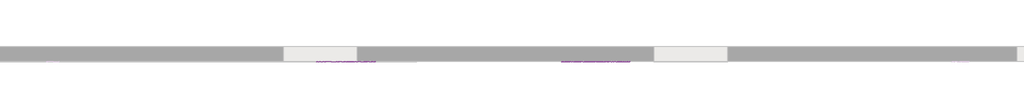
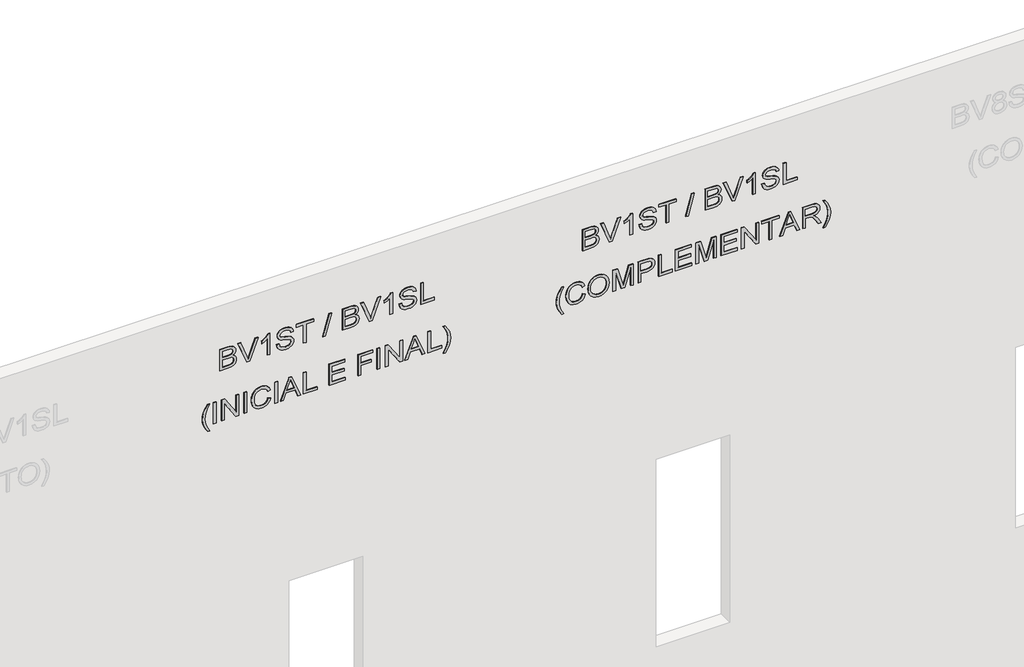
# One storey, part 2 of 5: 2 proxies.
"""IFC4 building model written with IfcOpenShell, lengths in millimetres."""

import ifcopenshell
import ifcopenshell.guid

model = None  # the IFC model being written
_history = None  # IfcOwnerHistory: only IFC2X3 demands one
_inside = {}  # id of a spatial element -> (the spatial element, [elements in it])
_under = {}  # id of a project, library or spatial element -> (it, [spatial elements below it])
_declared = {}  # id of a project -> (the project, [libraries it declares])
_typed = {}  # id of a type object -> (the type object, [elements of that type])
_made_of = {}  # id of a material, layer set ... -> (it, [elements and type objects made of it])


def new_model(schema):
    """Start an empty IFC model of exactly this schema.

    Asked for "IFC4X3", IfcOpenShell would pick the latest addendum, in which some entities
    have other attributes; the version numbers below select the first issue.
    IFC2X3 requires an IfcOwnerHistory on every rooted entity: one is made here for all.
    """
    global model, _history
    if schema == "IFC4X3":
        model = ifcopenshell.file(schema_version=(4, 3, 0, 0))
    else:
        model = ifcopenshell.file(schema=schema)
    _inside.clear()
    _under.clear()
    _declared.clear()
    _typed.clear()
    _made_of.clear()
    _history = None
    if model.schema == "IFC2X3":
        org = make("IfcOrganization", Name="unknown")
        user = make(
            "IfcPersonAndOrganization",
            ThePerson=make("IfcPerson", FamilyName="unknown"),
            TheOrganization=org,
        )
        app = make(
            "IfcApplication",
            ApplicationDeveloper=org,
            Version="unknown",
            ApplicationFullName="unknown",
            ApplicationIdentifier="unknown",
        )
        _history = make(
            "IfcOwnerHistory",
            OwningUser=user,
            OwningApplication=app,
            ChangeAction="ADDED",
            CreationDate=0,
        )
    return model


def make(cls, **values):
    """One entity of the class cls with the attributes given. An attribute that is None is left unset."""
    return model.create_entity(
        cls, **{name: value for name, value in values.items() if value is not None}
    )


def rooted(cls, **values):
    """An entity with a GlobalId (a new one), such as an element, a storey or a relation."""
    return make(cls, GlobalId=ifcopenshell.guid.new(), OwnerHistory=_history, **values)


def si_unit(unit_type, name, prefix=None):
    """IfcSIUnit, for example si_unit("LENGTHUNIT", "METRE", prefix="MILLI")."""
    return make("IfcSIUnit", UnitType=unit_type, Prefix=prefix, Name=name)


def assignment(units):
    """IfcUnitAssignment: the units of a project."""
    return None if units is None else make("IfcUnitAssignment", Units=units)


def point(xyz):
    """IfcCartesianPoint."""
    return None if xyz is None else make("IfcCartesianPoint", Coordinates=xyz)


def direction(xyz):
    """IfcDirection."""
    return None if xyz is None else make("IfcDirection", DirectionRatios=xyz)


def frame(location, z_axis=None, x_axis=None):
    """IfcAxis2Placement3D, a coordinate frame: its origin and axes. An axis left out is left unset."""
    return make(
        "IfcAxis2Placement3D",
        Location=point(location),
        Axis=direction(z_axis),
        RefDirection=direction(x_axis),
    )


def origin():
    """The frame at (0, 0, 0) with its axes left unset."""
    return frame((0.0, 0.0, 0.0))


def place(relative_to, where):
    """IfcLocalPlacement: puts the frame where relative to a parent placement (None: the world)."""
    return make(
        "IfcLocalPlacement", PlacementRelTo=relative_to, RelativePlacement=where
    )


def context(
    kind, dimensions, precision=None, world=None, true_north=None, identifier=None
):
    """IfcGeometricRepresentationContext, for example the 3D "Model" context."""
    return make(
        "IfcGeometricRepresentationContext",
        ContextIdentifier=identifier,
        ContextType=kind,
        CoordinateSpaceDimension=dimensions,
        Precision=precision,
        WorldCoordinateSystem=world,
        TrueNorth=true_north,
    )


def project(units=None, contexts=None):
    """IfcProject with its units and contexts."""
    return rooted(
        "IfcProject",
        Name="project",
        RepresentationContexts=contexts,
        UnitsInContext=assignment(units),
    )


def spatial(cls, under=None, at=None, **own):
    """A site, building, storey or space (cls), placed at a placement, below another one or the project."""
    s = rooted(cls, ObjectPlacement=at, **own)
    if under is not None:
        _under.setdefault(under.id(), (under, []))[1].append(s)
    return s


def polyline(points):
    """IfcPolyline through the points."""
    return make("IfcPolyline", Points=[point(p) for p in points])


def outline(outer, holes=None, kind="AREA"):
    """IfcArbitraryClosedProfileDef: a profile drawn as a closed curve; with holes, ...WithVoids."""
    if holes is None:
        return make("IfcArbitraryClosedProfileDef", ProfileType=kind, OuterCurve=outer)
    return make(
        "IfcArbitraryProfileDefWithVoids",
        ProfileType=kind,
        OuterCurve=outer,
        InnerCurves=holes,
    )


def extrude(swept, where, along, depth):
    """IfcExtrudedAreaSolid: the profile swept, set in the frame where, extruded along a direction by depth."""
    return make(
        "IfcExtrudedAreaSolid",
        SweptArea=swept,
        Position=where,
        ExtrudedDirection=direction(along),
        Depth=depth,
    )


def shape(context_of_items, identifier, shape_type, items):
    """IfcShapeRepresentation: the items that make up one representation, for example the "Body"."""
    return make(
        "IfcShapeRepresentation",
        ContextOfItems=context_of_items,
        RepresentationIdentifier=identifier,
        RepresentationType=shape_type,
        Items=items,
    )


def made_of(thing, what):
    """Note that an element or type object is made of a material, layer set ...; save() writes the relation."""
    if what is not None:
        _made_of.setdefault(what.id(), (what, []))[1].append(thing)
    return thing


def element(
    cls,
    number,
    at=None,
    inside=None,
    cuts=None,
    type_object=None,
    material=None,
    context=None,
    identifier="Body",
    shape_type=None,
    held_by="IfcProductDefinitionShape",
    body=None,
    shapes=None,
    **own,
):
    """One element of the class cls, such as IfcWall. Its Tag is "e" and its number.

    at: its placement. inside: the storey or other place that contains it. cuts: it is an
    opening in that element (IfcRelVoidsElement). A single representation is given by context,
    identifier, shape_type and body (its items); several are given by shapes. held_by: the class
    of the entity that holds the representations. save() writes the other relations.
    """
    e = rooted(cls, Tag="e%d" % number, ObjectPlacement=at, **own)
    if body is not None:
        shapes = [shape(context, identifier, shape_type, body)]
    if shapes is not None:
        e.Representation = make(held_by, Representations=shapes)
    if inside is not None:
        _inside.setdefault(inside.id(), (inside, []))[1].append(e)
    if cuts is not None:
        rooted(
            "IfcRelVoidsElement", RelatingBuildingElement=cuts, RelatedOpeningElement=e
        )
    if type_object is not None:
        _typed.setdefault(type_object.id(), (type_object, []))[1].append(e)
    return made_of(e, material)


def aggregate(whole, parts):
    """IfcRelAggregates: a whole, such as a stair, and the parts it consists of."""
    return rooted("IfcRelAggregates", RelatingObject=whole, RelatedObjects=parts)


def save(model, path):
    """Write the relations noted so far, then the file.

    IfcRelAggregates (storeys below a building ...), IfcRelContainedInSpatialStructure (elements
    in a storey), IfcRelDefinesByType, IfcRelAssociatesMaterial and IfcRelDeclares: one each for
    every whole, place, type object, material and project.
    """
    for whole, parts in _under.values():
        aggregate(whole, parts)
    for where, things in _inside.values():
        rooted(
            "IfcRelContainedInSpatialStructure",
            RelatedElements=things,
            RelatingStructure=where,
        )
    for kind, things in _typed.values():
        rooted("IfcRelDefinesByType", RelatedObjects=things, RelatingType=kind)
    for what, things in _made_of.values():
        rooted("IfcRelAssociatesMaterial", RelatedObjects=things, RelatingMaterial=what)
    for by, libraries in _declared.values():
        rooted("IfcRelDeclares", RelatingContext=by, RelatedDefinitions=libraries)
    model.write(path)


model = new_model("IFC4")

# Units and contexts
model_context = context("Model", 3, world=origin())
ifc_project = project(units=[si_unit("LENGTHUNIT", "METRE", prefix="MILLI")], contexts=[model_context])

# Site, building, storey
site = spatial("IfcSite", under=ifc_project)
building = spatial("IfcBuilding", under=site)
storey = spatial("IfcBuildingStorey", under=building, Name="01 - Marelli - Planta Baixa - Painel Simples", Elevation=0.0)

# Proxies
placement = place(None, origin())
element("IfcBuildingElementProxy", 1, Name="300mm Arial", ObjectType="300mm Arial", at=placement, inside=storey, context=model_context, shape_type="SweptSolid", body=[
    extrude(outline(polyline([(6065.9244535, 7363.4646331), (6065.9244535, 7477.581628), (6071.1115897, 7525.884534), (6077.5311305, 7543.9199488), (6086.4154807, 7558.6628198), (6098.6843452, 7570.7017581), (6115.2574291, 7580.6253749), (6134.7459778, 7587.274842), (6155.7612368, 7589.491331), (6180.9795475, 7586.2447724), (6202.6294029, 7576.5050965), (6219.5887629, 7560.732156), (6230.7355874, 7539.3858032), (6242.4802201, 7557.2556711), (6257.407032, 7569.956797), (6274.4675596, 7577.5443632), (6292.613339, 7580.0735519), (6312.3318139, 7577.0661166), (6331.1673721, 7568.0438107), (6347.1794359, 7553.7148069), (6358.4274279, 7534.7872783), (6365.076895, 7510.0931994), (6367.293384, 7478.4645448), (6367.293384, 7363.4646331), (6065.9244535, 7363.4646331)]), holes=[polyline([(6244.862256, 7401.1357494), (6329.6222677, 7401.1357494), (6329.6222677, 7464.7057582), (6325.6859303, 7513.1190288), (6320.084927, 7525.6086225), (6311.1545915, 7534.8240665), (6299.7134615, 7540.5078433), (6286.5800742, 7542.4024356), (6273.0512139, 7540.3698876), (6262.0423452, 7534.2722435), (6253.6822268, 7524.1646857), (6248.0996175, 7510.1023964), (6244.862256, 7469.9296825), (6244.862256, 7401.1357494)]), polyline([(6103.5955698, 7401.1357494), (6207.1911397, 7401.1357494), (6207.1911397, 7474.7121485), (6205.9311438, 7501.539943), (6202.1511563, 7521.2492209), (6195.262566, 7535.1643573), (6184.6767616, 7544.6097276), (6171.1387042, 7550.0175929), (6155.3933548, 7551.8202147), (6141.8369032, 7550.2843073), (6130.0094971, 7545.6765854), (6113.2708663, 7530.0048124), (6105.0670978, 7506.3500001), (6103.5955698, 7478.3909684), (6103.5955698, 7401.1357494)])]), frame((0.0, 8778.3159498, 0.0), z_axis=(0.0, 1.0, 0.0), x_axis=(0.0, 0.0, 1.0)), (0.0, 0.0, 1.0), 10.0),
    extrude(outline(polyline([(6065.9244535, 7730.3165587), (6065.9244535, 7769.2384738), (6367.293384, 7884.0912327), (6367.293384, 7843.771366), (6150.1694304, 7763.2787855), (6101.2411251, 7747.2391305), (6150.1694304, 7730.9787463), (6367.293384, 7650.706895), (6367.293384, 7610.3870283), (6065.9244535, 7730.3165587)])), frame((0.0, 8778.3159498, 0.0), z_axis=(0.0, 1.0, 0.0), x_axis=(0.0, 0.0, 1.0)), (0.0, 0.0, 1.0), 10.0),
    extrude(outline(polyline([(6065.9244535, 8046.2536162), (6367.293384, 8046.2536162), (6367.293384, 8021.9734045), (6347.5565149, 8008.6652733), (6327.1942465, 7988.4593547), (6308.0459887, 7962.8271767), (6291.9511514, 7933.2402673), (6256.3401742, 7933.2402673), (6275.3596734, 7972.8979463), (6300.7803193, 8008.5824999), (6065.9244535, 8008.5824999), (6065.9244535, 8046.2536162)])), frame((0.0, 8778.3159498, 0.0), z_axis=(0.0, 1.0, 0.0), x_axis=(0.0, 0.0, 1.0)), (0.0, 0.0, 1.0), 10.0),
    extrude(outline(polyline([(6169.5200234, 8135.7225174), (6139.0961824, 8140.1922837), (6111.9832793, 8151.9829016), (6089.7264186, 8170.3494102), (6073.8707046, 8194.5468484), (6064.3793492, 8224.9247042), (6061.215564, 8261.8324654), (6064.1494229, 8291.8976214), (6072.9509996, 8318.8173864), (6087.0408801, 8341.2030058), (6105.83965, 8357.6657251), (6127.6826435, 8367.791677), (6150.9051944, 8371.1669943), (6173.6219076, 8368.2331354), (6193.5059295, 8359.4315587), (6210.3733189, 8344.4495644), (6224.0401351, 8322.974453), (6232.8509088, 8297.8481127), (6242.9492696, 8256.3142354), (6253.5810593, 8216.0679452), (6263.9921197, 8194.8043658), (6275.6355849, 8185.8096511), (6290.1117414, 8182.8114128), (6307.0894955, 8187.0420557), (6321.381711, 8199.7339846), (6331.0937957, 8221.6781456), (6334.3311572, 8253.6654851), (6331.0570075, 8284.9170606), (6321.2345582, 8307.4498328), (6305.0109622, 8321.870807), (6282.5333723, 8328.7869885), (6282.5333723, 8366.4581048), (6307.4941657, 8362.2090677), (6329.6958441, 8351.5220958), (6347.9979733, 8334.6363122), (6361.2601193, 8311.7908403), (6369.316735, 8283.9789615), (6372.0022735, 8252.1939571), (6369.4362966, 8222.855368), (6361.7383659, 8196.3494702), (6349.0832252, 8174.2673535), (6331.6456187, 8158.2001073), (6311.0718181, 8148.4052492), (6289.0080954, 8145.1402965), (6269.2712264, 8147.7798498), (6251.5577083, 8155.6985098), (6236.198635, 8168.9882468), (6223.5251003, 8187.7410315), (6214.4660061, 8210.7796415), (6204.9470595, 8246.7860918), (6190.5628735, 8301.6372972), (6182.7545782, 8317.7137404), (6173.4563607, 8327.2418841), (6162.5578566, 8331.9323795), (6149.9487012, 8333.495878), (6137.0084521, 8331.4081477), (6124.6752082, 8325.1449567), (6113.9330539, 8314.6143346), (6105.7660736, 8299.7243109), (6100.6065286, 8281.3486052), (6098.8866803, 8260.3609374), (6101.1583516, 8236.5221841), (6107.9733656, 8215.1850284), (6118.4763965, 8197.7290277), (6131.8121189, 8185.5337396), (6148.615129, 8177.7162472), (6169.5200234, 8173.3936337), (6169.5200234, 8135.7225174)])), frame((0.0, 8778.3159498, 0.0), z_axis=(0.0, 1.0, 0.0), x_axis=(0.0, 0.0, 1.0)), (0.0, 0.0, 1.0), 10.0),
    extrude(outline(polyline([(6065.9244535, 8503.0159014), (6065.9244535, 8540.6870177), (6329.6222677, 8540.6870177), (6329.6222677, 8639.573698), (6367.293384, 8639.573698), (6367.293384, 8404.1292211), (6329.6222677, 8404.1292211), (6329.6222677, 8503.0159014), (6065.9244535, 8503.0159014)])), frame((0.0, 8778.3159498, 0.0), z_axis=(0.0, 1.0, 0.0), x_axis=(0.0, 0.0, 1.0)), (0.0, 0.0, 1.0), 10.0),
    extrude(outline(polyline([(6065.9244535, 8766.7137155), (6065.9244535, 8800.7060119), (6367.293384, 8885.4660236), (6367.293384, 8851.4737272), (6065.9244535, 8766.7137155)])), frame((0.0, 8778.3159498, 0.0), z_axis=(0.0, 1.0, 0.0), x_axis=(0.0, 0.0, 1.0)), (0.0, 0.0, 1.0), 10.0),
    extrude(outline(polyline([(6065.9244535, 9035.1204192), (6065.9244535, 9149.2374141), (6071.1115897, 9197.5403201), (6077.5311305, 9215.5757349), (6086.4154807, 9230.3186059), (6098.6843452, 9242.3575442), (6115.2574291, 9252.281161), (6134.7459778, 9258.930628), (6155.7612368, 9261.1471171), (6180.9795475, 9257.9005585), (6202.6294029, 9248.1608826), (6219.5887629, 9232.3879421), (6230.7355874, 9211.0415893), (6242.4802201, 9228.9114572), (6257.407032, 9241.6125831), (6274.4675596, 9249.2001493), (6292.613339, 9251.729338), (6312.3318139, 9248.7219027), (6331.1673721, 9239.6995967), (6347.1794359, 9225.370593), (6358.4274279, 9206.4430644), (6365.076895, 9181.7489855), (6367.293384, 9150.1203309), (6367.293384, 9035.1204192), (6065.9244535, 9035.1204192)]), holes=[polyline([(6244.862256, 9072.7915355), (6329.6222677, 9072.7915355), (6329.6222677, 9136.3615443), (6325.6859303, 9184.7748149), (6320.084927, 9197.2644086), (6311.1545915, 9206.4798526), (6299.7134615, 9212.1636294), (6286.5800742, 9214.0582217), (6273.0512139, 9212.0256737), (6262.0423452, 9205.9280296), (6253.6822268, 9195.8204718), (6248.0996175, 9181.7581825), (6244.862256, 9141.5854686), (6244.862256, 9072.7915355)]), polyline([(6103.5955698, 9072.7915355), (6207.1911397, 9072.7915355), (6207.1911397, 9146.3679346), (6205.9311438, 9173.1957291), (6202.1511563, 9192.905007), (6195.262566, 9206.8201434), (6184.6767616, 9216.2655136), (6171.1387042, 9221.673379), (6155.3933548, 9223.4760008), (6141.8369032, 9221.9400934), (6130.0094971, 9217.3323714), (6113.2708663, 9201.6605984), (6105.0670978, 9178.0057861), (6103.5955698, 9150.0467545), (6103.5955698, 9072.7915355)])]), frame((0.0, 8778.3159498, 0.0), z_axis=(0.0, 1.0, 0.0), x_axis=(0.0, 0.0, 1.0)), (0.0, 0.0, 1.0), 10.0),
    extrude(outline(polyline([(6065.9244535, 9401.9723448), (6065.9244535, 9440.8942599), (6367.293384, 9555.7470188), (6367.293384, 9515.4271521), (6150.1694304, 9434.9345716), (6101.2411251, 9418.8949166), (6150.1694304, 9402.6345324), (6367.293384, 9322.3626811), (6367.293384, 9282.0428144), (6065.9244535, 9401.9723448)])), frame((0.0, 8778.3159498, 0.0), z_axis=(0.0, 1.0, 0.0), x_axis=(0.0, 0.0, 1.0)), (0.0, 0.0, 1.0), 10.0),
    extrude(outline(polyline([(6065.9244535, 9717.9094023), (6367.293384, 9717.9094023), (6367.293384, 9693.6291906), (6347.5565149, 9680.3210594), (6327.1942465, 9660.1151408), (6308.0459887, 9634.4829628), (6291.9511514, 9604.8960534), (6256.3401742, 9604.8960534), (6275.3596734, 9644.5537324), (6300.7803193, 9680.238286), (6065.9244535, 9680.238286), (6065.9244535, 9717.9094023)])), frame((0.0, 8778.3159498, 0.0), z_axis=(0.0, 1.0, 0.0), x_axis=(0.0, 0.0, 1.0)), (0.0, 0.0, 1.0), 10.0),
    extrude(outline(polyline([(6169.5200234, 9807.3783035), (6139.0961824, 9811.8480697), (6111.9832793, 9823.6386877), (6089.7264186, 9842.0051963), (6073.8707046, 9866.2026345), (6064.3793492, 9896.5804903), (6061.215564, 9933.4882514), (6064.1494229, 9963.5534075), (6072.9509996, 9990.4731725), (6087.0408801, 10012.8587919), (6105.83965, 10029.3215112), (6127.6826435, 10039.4474631), (6150.9051944, 10042.8227804), (6173.6219076, 10039.8889215), (6193.5059295, 10031.0873448), (6210.3733189, 10016.1053505), (6224.0401351, 9994.630239), (6232.8509088, 9969.5038988), (6242.9492696, 9927.9700215), (6253.5810593, 9887.7237312), (6263.9921197, 9866.4601519), (6275.6355849, 9857.4654371), (6290.1117414, 9854.4671989), (6307.0894955, 9858.6978418), (6321.381711, 9871.3897707), (6331.0937957, 9893.3339317), (6334.3311572, 9925.3212712), (6331.0570075, 9956.5728466), (6321.2345582, 9979.1056188), (6305.0109622, 9993.5265931), (6282.5333723, 10000.4427746), (6282.5333723, 10038.1138909), (6307.4941657, 10033.8648538), (6329.6958441, 10023.1778819), (6347.9979733, 10006.2920983), (6361.2601193, 9983.4466264), (6369.316735, 9955.6347476), (6372.0022735, 9923.8497432), (6369.4362966, 9894.5111541), (6361.7383659, 9868.0052563), (6349.0832252, 9845.9231395), (6331.6456187, 9829.8558934), (6311.0718181, 9820.0610353), (6289.0080954, 9816.7960826), (6269.2712264, 9819.4356359), (6251.5577083, 9827.3542958), (6236.198635, 9840.6440329), (6223.5251003, 9859.3968176), (6214.4660061, 9882.4354276), (6204.9470595, 9918.4418778), (6190.5628735, 9973.2930833), (6182.7545782, 9989.3695265), (6173.4563607, 9998.8976702), (6162.5578566, 10003.5881656), (6149.9487012, 10005.1516641), (6137.0084521, 10003.0639338), (6124.6752082, 9996.8007428), (6113.9330539, 9986.2701207), (6105.7660736, 9971.3800969), (6100.6065286, 9953.0043913), (6098.8866803, 9932.0167235), (6101.1583516, 9908.1779702), (6107.9733656, 9886.8408145), (6118.4763965, 9869.3848138), (6131.8121189, 9857.1895256), (6148.615129, 9849.3720332), (6169.5200234, 9845.0494198), (6169.5200234, 9807.3783035)])), frame((0.0, 8778.3159498, 0.0), z_axis=(0.0, 1.0, 0.0), x_axis=(0.0, 0.0, 1.0)), (0.0, 0.0, 1.0), 10.0),
    extrude(outline(polyline([(6065.9244535, 10099.3294549), (6065.9244535, 10287.6850364), (6103.5955698, 10287.6850364), (6103.5955698, 10137.0005712), (6367.293384, 10137.0005712), (6367.293384, 10099.3294549), (6065.9244535, 10099.3294549)])), frame((0.0, 8778.3159498, 0.0), z_axis=(0.0, 1.0, 0.0), x_axis=(0.0, 0.0, 1.0)), (0.0, 0.0, 1.0), 10.0),
    extrude(outline(polyline([(5249.3155348, 7080.9312608), (5249.3155348, 7109.1845981), (5297.5540614, 7080.3426497), (5345.8109821, 7059.7412579), (5394.0862969, 7047.3804229), (5442.3800058, 7043.2601445), (5480.2534572, 7045.6329834), (5517.9429677, 7052.7515), (5575.7740173, 7073.9415029), (5635.4444769, 7109.1845981), (5635.4444769, 7080.9312608), (5584.934279, 7046.2399887), (5534.2033518, 7021.9229888), (5489.4137189, 7009.6725184), (5442.600735, 7005.5890282), (5389.2210575, 7011.0520759), (5337.68079, 7027.4412187), (5290.2791949, 7051.7398245), (5249.3155348, 7080.9312608)])), frame((0.0, 8778.3159498, 0.0), z_axis=(0.0, 1.0, 0.0), x_axis=(0.0, 0.0, 1.0)), (0.0, 0.0, 1.0), 10.0),
    extrude(outline(polyline([(5441.2027835, 7363.4646331), (5408.9395325, 7351.278542), (5385.7261786, 7331.4956878), (5371.7098746, 7305.2932927), (5367.0377732, 7273.8485791), (5370.4682728, 7246.8736318), (5380.7597717, 7221.8668532), (5397.9858461, 7201.0079441), (5422.2200725, 7186.4766053), (5452.3128197, 7177.95094), (5487.1144565, 7175.1090516), (5515.5333406, 7177.5094816), (5543.1060961, 7184.7107717), (5567.4966724, 7197.8349619), (5586.3690188, 7218.0040922), (5598.4539423, 7244.5835664), (5602.4822501, 7276.9387879), (5598.8494154, 7305.0081841), (5587.9509113, 7327.853656), (5569.1061561, 7345.6959328), (5541.6345681, 7358.7557436), (5550.6108888, 7396.4268599), (5588.4291579, 7379.7893967), (5603.751443, 7367.9872824), (5616.6824952, 7353.8629131), (5626.9510013, 7337.6830031), (5634.2856486, 7319.7142669), (5640.1533665, 7278.4103159), (5635.6192209, 7240.5552586), (5622.0167841, 7206.0111392), (5599.6771499, 7176.8840822), (5568.9314122, 7155.2802121), (5530.9843844, 7141.8985045), (5487.0408801, 7137.4379353), (5445.3782441, 7141.3834697), (5406.4747231, 7153.2200729), (5373.3837376, 7172.607454), (5349.1587083, 7199.2053223), (5334.3146698, 7233.9057915), (5329.3666569, 7277.6009755), (5331.0014325, 7300.0233831), (5335.9057594, 7320.6431689), (5344.0796375, 7339.460333), (5355.5230668, 7356.4748752), (5370.0796975, 7371.3511034), (5387.5931797, 7383.7533252), (5408.0635135, 7393.6815405), (5431.4906988, 7401.1357494), (5441.2027835, 7363.4646331)])), frame((0.0, 8778.3159498, 0.0), z_axis=(0.0, 1.0, 0.0), x_axis=(0.0, 0.0, 1.0)), (0.0, 0.0, 1.0), 10.0),
    extrude(outline(polyline([(5480.7868861, 7438.8068658), (5442.2420501, 7443.1110851), (5405.7757473, 7456.0237431), (5374.0827134, 7477.2873224), (5349.8576841, 7506.6443057), (5334.4894137, 7542.292071), (5329.3666569, 7582.4279967), (5334.0019701, 7620.2370687), (5347.9079095, 7655.3789963), (5370.8269578, 7685.3429848), (5402.5015976, 7707.6182396), (5440.9636602, 7721.4414056), (5484.2449769, 7726.0491276), (5526.9560765, 7721.6713318), (5564.8847102, 7708.5379446), (5596.5041677, 7687.0536361), (5620.2877387, 7657.6230765), (5635.1869595, 7622.1776462), (5640.1533665, 7582.6487259), (5637.5092146, 7552.3582421), (5629.5767591, 7524.9832231), (5616.3559999, 7500.523669), (5597.846937, 7478.9795796), (5574.6657728, 7461.4040173), (5547.4287096, 7448.8500442), (5516.1357474, 7441.3176604), (5480.7868861, 7438.8068658)]), holes=[polyline([(5480.4190041, 7476.4779821), (5510.955509, 7478.4415522), (5536.7877229, 7484.3322627), (5557.9156457, 7494.1501134), (5574.3392775, 7507.8951044), (5586.651828, 7524.3624223), (5595.446507, 7542.3472533), (5600.7233144, 7561.8495976), (5602.4822501, 7582.8694551), (5598.8310213, 7612.0333002), (5587.8773349, 7638.1621189), (5570.2833785, 7659.8211714), (5546.7113397, 7675.5757178), (5517.8877854, 7685.1774379), (5484.5392825, 7688.3780113), (5458.0011951, 7686.5087109), (5434.672878, 7680.9008097), (5414.5543314, 7671.5543078), (5397.6455552, 7658.4692051), (5384.2546506, 7642.4870316), (5374.6897187, 7624.4493176), (5368.9507596, 7604.3560628), (5367.0377732, 7582.2072675), (5368.9323655, 7560.4309526), (5374.6161423, 7540.5722227), (5384.0891037, 7522.6310776), (5397.3512496, 7506.6075175), (5413.9105379, 7493.4258457), (5433.2749265, 7484.0103659), (5455.4444152, 7478.361078), (5480.4190041, 7476.4779821)])]), frame((0.0, 8778.3159498, 0.0), z_axis=(0.0, 1.0, 0.0), x_axis=(0.0, 0.0, 1.0)), (0.0, 0.0, 1.0), 10.0),
    extrude(outline(polyline([(5334.0755465, 7777.8469125), (5334.0755465, 7815.5180288), (5597.7733606, 7815.5180288), (5334.0755465, 7891.2281434), (5334.0755465, 7942.2901644), (5597.7733606, 8018.000279), (5334.0755465, 8018.000279), (5334.0755465, 8055.6713953), (5635.4444769, 8055.6713953), (5635.4444769, 7990.8505877), (5426.7082328, 7930.2236349), (5378.6628443, 7916.7591539), (5423.0294129, 7904.3247424), (5635.4444769, 7842.6677201), (5635.4444769, 7777.8469125), (5334.0755465, 7777.8469125)])), frame((0.0, 8778.3159498, 0.0), z_axis=(0.0, 1.0, 0.0), x_axis=(0.0, 0.0, 1.0)), (0.0, 0.0, 1.0), 10.0),
    extrude(outline(polyline([(5334.0755465, 8121.5958488), (5334.0755465, 8159.2669651), (5456.5066745, 8159.2669651), (5456.5066745, 8235.8599965), (5458.1713405, 8265.0583306), (5463.1653386, 8289.3776298), (5471.4886687, 8308.8178939), (5483.1413309, 8323.3791232), (5497.1990217, 8333.9856209), (5512.7374374, 8341.5616908), (5529.7565782, 8346.1073327), (5548.2564441, 8347.6225466), (5569.7131614, 8345.3784665), (5589.3488629, 8338.646226), (5605.9955232, 8328.2259684), (5618.4851169, 8314.9178373), (5627.2131173, 8298.3907386), (5632.5749974, 8278.3135787), (5635.4444769, 8233.2848225), (5635.4444769, 8121.5958488), (5334.0755465, 8121.5958488)]), holes=[polyline([(5494.1777908, 8159.2669651), (5597.7733606, 8159.2669651), (5597.7733606, 8237.1843717), (5595.1981866, 8274.855488), (5588.8706163, 8289.0833242), (5578.1284621, 8300.2761339), (5563.8546407, 8307.5326062), (5546.9320689, 8309.9514303), (5524.6568141, 8305.8495461), (5508.0101538, 8293.5438933), (5497.6358815, 8271.4709736), (5494.1777908, 8238.0672885), (5494.1777908, 8159.2669651)])]), frame((0.0, 8778.3159498, 0.0), z_axis=(0.0, 1.0, 0.0), x_axis=(0.0, 0.0, 1.0)), (0.0, 0.0, 1.0), 10.0),
    extrude(outline(polyline([(5334.0755465, 8399.4203316), (5334.0755465, 8587.7759131), (5371.7466628, 8587.7759131), (5371.7466628, 8437.0914479), (5635.4444769, 8437.0914479), (5635.4444769, 8399.4203316), (5334.0755465, 8399.4203316)])), frame((0.0, 8778.3159498, 0.0), z_axis=(0.0, 1.0, 0.0), x_axis=(0.0, 0.0, 1.0)), (0.0, 0.0, 1.0), 10.0),
    extrude(outline(polyline([(5334.0755465, 8630.1559189), (5334.0755465, 8851.4737272), (5371.7466628, 8851.4737272), (5371.7466628, 8667.8270352), (5470.6333431, 8667.8270352), (5470.6333431, 8837.3470586), (5508.3044594, 8837.3470586), (5508.3044594, 8667.8270352), (5597.7733606, 8667.8270352), (5597.7733606, 8846.7648377), (5635.4444769, 8846.7648377), (5635.4444769, 8630.1559189), (5334.0755465, 8630.1559189)])), frame((0.0, 8778.3159498, 0.0), z_axis=(0.0, 1.0, 0.0), x_axis=(0.0, 0.0, 1.0)), (0.0, 0.0, 1.0), 10.0),
    extrude(outline(polyline([(5334.0755465, 8907.9804017), (5334.0755465, 8945.651518), (5597.7733606, 8945.651518), (5334.0755465, 9021.3616326), (5334.0755465, 9072.4236535), (5597.7733606, 9148.1337681), (5334.0755465, 9148.1337681), (5334.0755465, 9185.8048844), (5635.4444769, 9185.8048844), (5635.4444769, 9120.9840769), (5426.7082328, 9060.3571241), (5378.6628443, 9046.8926431), (5423.0294129, 9034.4582316), (5635.4444769, 8972.8012092), (5635.4444769, 8907.9804017), (5334.0755465, 8907.9804017)])), frame((0.0, 8778.3159498, 0.0), z_axis=(0.0, 1.0, 0.0), x_axis=(0.0, 0.0, 1.0)), (0.0, 0.0, 1.0), 10.0),
    extrude(outline(polyline([(5334.0755465, 9251.729338), (5334.0755465, 9473.0471463), (5371.7466628, 9473.0471463), (5371.7466628, 9289.4004543), (5470.6333431, 9289.4004543), (5470.6333431, 9458.9204777), (5508.3044594, 9458.9204777), (5508.3044594, 9289.4004543), (5597.7733606, 9289.4004543), (5597.7733606, 9468.3382567), (5635.4444769, 9468.3382567), (5635.4444769, 9251.729338), (5334.0755465, 9251.729338)])), frame((0.0, 8778.3159498, 0.0), z_axis=(0.0, 1.0, 0.0), x_axis=(0.0, 0.0, 1.0)), (0.0, 0.0, 1.0), 10.0),
    extrude(outline(polyline([(5334.0755465, 9529.5538207), (5334.0755465, 9567.224937), (5572.9045377, 9567.224937), (5334.0755465, 9724.678431), (5334.0755465, 9764.9982977), (5635.4444769, 9764.9982977), (5635.4444769, 9727.3271813), (5396.689062, 9727.3271813), (5635.4444769, 9569.8736874), (5635.4444769, 9529.5538207), (5334.0755465, 9529.5538207)])), frame((0.0, 8778.3159498, 0.0), z_axis=(0.0, 1.0, 0.0), x_axis=(0.0, 0.0, 1.0)), (0.0, 0.0, 1.0), 10.0),
    extrude(outline(polyline([(5334.0755465, 9906.2649838), (5334.0755465, 9943.9361001), (5597.7733606, 9943.9361001), (5597.7733606, 10042.8227804), (5635.4444769, 10042.8227804), (5635.4444769, 9807.3783035), (5597.7733606, 9807.3783035), (5597.7733606, 9906.2649838), (5334.0755465, 9906.2649838)])), frame((0.0, 8778.3159498, 0.0), z_axis=(0.0, 1.0, 0.0), x_axis=(0.0, 0.0, 1.0)), (0.0, 0.0, 1.0), 10.0),
    extrude(outline(polyline([(5334.0755465, 10050.1068439), (5334.0755465, 10089.9116758), (5428.2533372, 10124.3454305), (5428.2533372, 10248.4688157), (5334.0755465, 10282.9761469), (5334.0755465, 10322.7809787), (5635.4444769, 10202.4835663), (5635.4444769, 10170.4042563), (5334.0755465, 10050.1068439)]), holes=[polyline([(5465.9244535, 10138.1777936), (5546.4906105, 10167.6819296), (5597.7733606, 10186.4439113), (5540.0158874, 10207.5603379), (5465.9244535, 10234.7100291), (5465.9244535, 10138.1777936)])]), frame((0.0, 8778.3159498, 0.0), z_axis=(0.0, 1.0, 0.0), x_axis=(0.0, 0.0, 1.0)), (0.0, 0.0, 1.0), 10.0),
    extrude(outline(polyline([(5334.0755465, 10363.027269), (5334.0755465, 10400.6983853), (5465.9244535, 10400.6983853), (5465.9244535, 10446.1685999), (5464.6000784, 10468.0207904), (5457.4263794, 10485.9366436), (5437.8918455, 10505.8390595), (5396.5419092, 10534.1659732), (5334.0755465, 10573.3821939), (5334.0755465, 10617.1601513), (5415.7453494, 10566.9074707), (5454.5201117, 10536.3732651), (5470.6333431, 10514.962533), (5480.6213392, 10552.0726293), (5488.6365682, 10566.454516), (5498.6659511, 10578.0542952), (5523.2772566, 10593.3673832), (5552.9653336, 10598.4717459), (5576.831678, 10595.3907342), (5598.5459128, 10586.1476991), (5616.0570958, 10571.745119), (5627.3142848, 10553.1854723), (5633.4119289, 10527.7924176), (5635.4444769, 10492.8896133), (5635.4444769, 10363.027269), (5334.0755465, 10363.027269)]), holes=[polyline([(5503.5955698, 10400.6983853), (5597.7733606, 10400.6983853), (5597.7733606, 10494.5082941), (5594.5176049, 10524.3159327), (5584.750338, 10544.8713392), (5569.9430877, 10556.818307), (5551.567382, 10560.8006296), (5538.2592508, 10558.7128993), (5525.9995833, 10552.4497083), (5515.8644344, 10542.1674066), (5508.9298588, 10528.0223438), (5504.9291421, 10509.2327709), (5503.5955698, 10485.0169386), (5503.5955698, 10400.6983853)])]), frame((0.0, 8778.3159498, 0.0), z_axis=(0.0, 1.0, 0.0), x_axis=(0.0, 0.0, 1.0)), (0.0, 0.0, 1.0), 10.0),
    extrude(outline(polyline([(5249.3155348, 10669.105089), (5290.2791949, 10698.1585696), (5337.68079, 10722.4847665), (5389.2210575, 10738.9566828), (5442.600735, 10744.4473216), (5489.4137189, 10740.3638315), (5534.2033518, 10728.113361), (5584.934279, 10703.7963611), (5635.4444769, 10669.105089), (5635.4444769, 10640.8517518), (5575.1854061, 10676.3155761), (5546.8400984, 10688.290135), (5517.2807801, 10697.2848498), (5479.9775458, 10704.4033664), (5442.3800058, 10706.7762053), (5394.0862969, 10702.655927), (5345.8109821, 10690.2950919), (5297.5540614, 10669.6937002), (5249.3155348, 10640.8517518), (5249.3155348, 10669.105089)])), frame((0.0, 8778.3159498, 0.0), z_axis=(0.0, 1.0, 0.0), x_axis=(0.0, 0.0, 1.0)), (0.0, 0.0, 1.0), 10.0),
])
element("IfcBuildingElementProxy", 2, Name="300mm Arial", ObjectType="300mm Arial", at=placement, inside=storey, context=model_context, shape_type="SweptSolid", body=[
    extrude(outline(polyline([(6065.9244535, 2422.3257524), (6065.9244535, 2536.4427473), (6071.1115897, 2584.7456532), (6077.5311305, 2602.7810681), (6086.4154807, 2617.523939), (6098.6843452, 2629.5628773), (6115.2574291, 2639.4864941), (6134.7459778, 2646.1359612), (6155.7612368, 2648.3524502), (6180.9795475, 2645.1058916), (6202.6294029, 2635.3662158), (6219.5887629, 2619.5932752), (6230.7355874, 2598.2469225), (6242.4802201, 2616.1167904), (6257.407032, 2628.8179163), (6274.4675596, 2636.4054824), (6292.613339, 2638.9346711), (6312.3318139, 2635.9272358), (6331.1673721, 2626.9049299), (6347.1794359, 2612.5759262), (6358.4274279, 2593.6483975), (6365.076895, 2568.9543186), (6367.293384, 2537.3256641), (6367.293384, 2422.3257524), (6065.9244535, 2422.3257524)]), holes=[polyline([(6244.862256, 2459.9968687), (6329.6222677, 2459.9968687), (6329.6222677, 2523.5668774), (6325.6859303, 2571.980148), (6320.084927, 2584.4697417), (6311.1545915, 2593.6851857), (6299.7134615, 2599.3689625), (6286.5800742, 2601.2635548), (6273.0512139, 2599.2310068), (6262.0423452, 2593.1333627), (6253.6822268, 2583.0258049), (6248.0996175, 2568.9635156), (6244.862256, 2528.7908018), (6244.862256, 2459.9968687)]), polyline([(6103.5955698, 2459.9968687), (6207.1911397, 2459.9968687), (6207.1911397, 2533.5732677), (6205.9311438, 2560.4010622), (6202.1511563, 2580.1103401), (6195.262566, 2594.0254766), (6184.6767616, 2603.4708468), (6171.1387042, 2608.8787121), (6155.3933548, 2610.6813339), (6141.8369032, 2609.1454266), (6130.0094971, 2604.5377046), (6113.2708663, 2588.8659316), (6105.0670978, 2565.2111193), (6103.5955698, 2537.2520877), (6103.5955698, 2459.9968687)])]), frame((0.0, 8778.3159498, 0.0), z_axis=(0.0, 1.0, 0.0), x_axis=(0.0, 0.0, 1.0)), (0.0, 0.0, 1.0), 10.0),
    extrude(outline(polyline([(6065.9244535, 2789.177678), (6065.9244535, 2828.099593), (6367.293384, 2942.9523519), (6367.293384, 2902.6324853), (6150.1694304, 2822.1399047), (6101.2411251, 2806.1002497), (6150.1694304, 2789.8398655), (6367.293384, 2709.5680142), (6367.293384, 2669.2481475), (6065.9244535, 2789.177678)])), frame((0.0, 8778.3159498, 0.0), z_axis=(0.0, 1.0, 0.0), x_axis=(0.0, 0.0, 1.0)), (0.0, 0.0, 1.0), 10.0),
    extrude(outline(polyline([(6065.9244535, 3105.1147354), (6367.293384, 3105.1147354), (6367.293384, 3080.8345237), (6347.5565149, 3067.5263926), (6327.1942465, 3047.320474), (6308.0459887, 3021.688296), (6291.9511514, 2992.1013865), (6256.3401742, 2992.1013865), (6275.3596734, 3031.7590656), (6300.7803193, 3067.4436191), (6065.9244535, 3067.4436191), (6065.9244535, 3105.1147354)])), frame((0.0, 8778.3159498, 0.0), z_axis=(0.0, 1.0, 0.0), x_axis=(0.0, 0.0, 1.0)), (0.0, 0.0, 1.0), 10.0),
    extrude(outline(polyline([(6169.5200234, 3194.5836366), (6139.0961824, 3199.0534029), (6111.9832793, 3210.8440208), (6089.7264186, 3229.2105294), (6073.8707046, 3253.4079677), (6064.3793492, 3283.7858234), (6061.215564, 3320.6935846), (6064.1494229, 3350.7587406), (6072.9509996, 3377.6785056), (6087.0408801, 3400.064125), (6105.83965, 3416.5268443), (6127.6826435, 3426.6527963), (6150.9051944, 3430.0281136), (6173.6219076, 3427.0942546), (6193.5059295, 3418.2926779), (6210.3733189, 3403.3106837), (6224.0401351, 3381.8355722), (6232.8509088, 3356.7092319), (6242.9492696, 3315.1753547), (6253.5810593, 3274.9290644), (6263.9921197, 3253.6654851), (6275.6355849, 3244.6707703), (6290.1117414, 3241.672532), (6307.0894955, 3245.903175), (6321.381711, 3258.5951038), (6331.0937957, 3280.5392648), (6334.3311572, 3312.5266043), (6331.0570075, 3343.7781798), (6321.2345582, 3366.310952), (6305.0109622, 3380.7319262), (6282.5333723, 3387.6481077), (6282.5333723, 3425.319224), (6307.4941657, 3421.070187), (6329.6958441, 3410.383215), (6347.9979733, 3393.4974314), (6361.2601193, 3370.6519595), (6369.316735, 3342.8400807), (6372.0022735, 3311.0550763), (6369.4362966, 3281.7164872), (6361.7383659, 3255.2105894), (6349.0832252, 3233.1284727), (6331.6456187, 3217.0612265), (6311.0718181, 3207.2663684), (6289.0080954, 3204.0014157), (6269.2712264, 3206.640969), (6251.5577083, 3214.559629), (6236.198635, 3227.8493661), (6223.5251003, 3246.6021508), (6214.4660061, 3269.6407607), (6204.9470595, 3305.647211), (6190.5628735, 3360.4984165), (6182.7545782, 3376.5748597), (6173.4563607, 3386.1030033), (6162.5578566, 3390.7934988), (6149.9487012, 3392.3569973), (6137.0084521, 3390.2692669), (6124.6752082, 3384.006076), (6113.9330539, 3373.4754538), (6105.7660736, 3358.5854301), (6100.6065286, 3340.2097244), (6098.8866803, 3319.2220566), (6101.1583516, 3295.3833033), (6107.9733656, 3274.0461476), (6118.4763965, 3256.5901469), (6131.8121189, 3244.3948588), (6148.615129, 3236.5773664), (6169.5200234, 3232.2547529), (6169.5200234, 3194.5836366)])), frame((0.0, 8778.3159498, 0.0), z_axis=(0.0, 1.0, 0.0), x_axis=(0.0, 0.0, 1.0)), (0.0, 0.0, 1.0), 10.0),
    extrude(outline(polyline([(6065.9244535, 3561.8770206), (6065.9244535, 3599.5481369), (6329.6222677, 3599.5481369), (6329.6222677, 3698.4348172), (6367.293384, 3698.4348172), (6367.293384, 3462.9903403), (6329.6222677, 3462.9903403), (6329.6222677, 3561.8770206), (6065.9244535, 3561.8770206)])), frame((0.0, 8778.3159498, 0.0), z_axis=(0.0, 1.0, 0.0), x_axis=(0.0, 0.0, 1.0)), (0.0, 0.0, 1.0), 10.0),
    extrude(outline(polyline([(6065.9244535, 3825.5748348), (6065.9244535, 3859.5671311), (6367.293384, 3944.3271428), (6367.293384, 3910.3348465), (6065.9244535, 3825.5748348)])), frame((0.0, 8778.3159498, 0.0), z_axis=(0.0, 1.0, 0.0), x_axis=(0.0, 0.0, 1.0)), (0.0, 0.0, 1.0), 10.0),
    extrude(outline(polyline([(6065.9244535, 4093.9815385), (6065.9244535, 4208.0985334), (6071.1115897, 4256.4014393), (6077.5311305, 4274.4368541), (6086.4154807, 4289.1797251), (6098.6843452, 4301.2186634), (6115.2574291, 4311.1422802), (6134.7459778, 4317.7917473), (6155.7612368, 4320.0082363), (6180.9795475, 4316.7616777), (6202.6294029, 4307.0220019), (6219.5887629, 4291.2490613), (6230.7355874, 4269.9027085), (6242.4802201, 4287.7725765), (6257.407032, 4300.4737023), (6274.4675596, 4308.0612685), (6292.613339, 4310.5904572), (6312.3318139, 4307.5830219), (6331.1673721, 4298.560716), (6347.1794359, 4284.2317123), (6358.4274279, 4265.3041836), (6365.076895, 4240.6101047), (6367.293384, 4208.9814501), (6367.293384, 4093.9815385), (6065.9244535, 4093.9815385)]), holes=[polyline([(6244.862256, 4131.6526548), (6329.6222677, 4131.6526548), (6329.6222677, 4195.2226635), (6325.6859303, 4243.6359341), (6320.084927, 4256.1255278), (6311.1545915, 4265.3409718), (6299.7134615, 4271.0247486), (6286.5800742, 4272.9193409), (6273.0512139, 4270.8867929), (6262.0423452, 4264.7891488), (6253.6822268, 4254.681591), (6248.0996175, 4240.6193017), (6244.862256, 4200.4465879), (6244.862256, 4131.6526548)]), polyline([(6103.5955698, 4131.6526548), (6207.1911397, 4131.6526548), (6207.1911397, 4205.2290538), (6205.9311438, 4232.0568483), (6202.1511563, 4251.7661262), (6195.262566, 4265.6812627), (6184.6767616, 4275.1266329), (6171.1387042, 4280.5344982), (6155.3933548, 4282.33712), (6141.8369032, 4280.8012127), (6130.0094971, 4276.1934907), (6113.2708663, 4260.5217177), (6105.0670978, 4236.8669054), (6103.5955698, 4208.9078737), (6103.5955698, 4131.6526548)])]), frame((0.0, 8778.3159498, 0.0), z_axis=(0.0, 1.0, 0.0), x_axis=(0.0, 0.0, 1.0)), (0.0, 0.0, 1.0), 10.0),
    extrude(outline(polyline([(6065.9244535, 4460.833464), (6065.9244535, 4499.7553791), (6367.293384, 4614.608138), (6367.293384, 4574.2882714), (6150.1694304, 4493.7956908), (6101.2411251, 4477.7560358), (6150.1694304, 4461.4956516), (6367.293384, 4381.2238003), (6367.293384, 4340.9039336), (6065.9244535, 4460.833464)])), frame((0.0, 8778.3159498, 0.0), z_axis=(0.0, 1.0, 0.0), x_axis=(0.0, 0.0, 1.0)), (0.0, 0.0, 1.0), 10.0),
    extrude(outline(polyline([(6065.9244535, 4776.7705215), (6367.293384, 4776.7705215), (6367.293384, 4752.4903098), (6347.5565149, 4739.1821786), (6327.1942465, 4718.9762601), (6308.0459887, 4693.344082), (6291.9511514, 4663.7571726), (6256.3401742, 4663.7571726), (6275.3596734, 4703.4148517), (6300.7803193, 4739.0994052), (6065.9244535, 4739.0994052), (6065.9244535, 4776.7705215)])), frame((0.0, 8778.3159498, 0.0), z_axis=(0.0, 1.0, 0.0), x_axis=(0.0, 0.0, 1.0)), (0.0, 0.0, 1.0), 10.0),
    extrude(outline(polyline([(6169.5200234, 4866.2394227), (6139.0961824, 4870.709189), (6111.9832793, 4882.4998069), (6089.7264186, 4900.8663155), (6073.8707046, 4925.0637538), (6064.3793492, 4955.4416095), (6061.215564, 4992.3493707), (6064.1494229, 5022.4145267), (6072.9509996, 5049.3342917), (6087.0408801, 5071.7199111), (6105.83965, 5088.1826304), (6127.6826435, 5098.3085823), (6150.9051944, 5101.6838996), (6173.6219076, 5098.7500407), (6193.5059295, 5089.948464), (6210.3733189, 5074.9664697), (6224.0401351, 5053.4913583), (6232.8509088, 5028.365018), (6242.9492696, 4986.8311407), (6253.5810593, 4946.5848505), (6263.9921197, 4925.3212712), (6275.6355849, 4916.3265564), (6290.1117414, 4913.3283181), (6307.0894955, 4917.5589611), (6321.381711, 4930.2508899), (6331.0937957, 4952.1950509), (6334.3311572, 4984.1823904), (6331.0570075, 5015.4339659), (6321.2345582, 5037.9667381), (6305.0109622, 5052.3877123), (6282.5333723, 5059.3038938), (6282.5333723, 5096.9750101), (6307.4941657, 5092.7259731), (6329.6958441, 5082.0390011), (6347.9979733, 5065.1532175), (6361.2601193, 5042.3077456), (6369.316735, 5014.4958668), (6372.0022735, 4982.7108624), (6369.4362966, 4953.3722733), (6361.7383659, 4926.8663755), (6349.0832252, 4904.7842588), (6331.6456187, 4888.7170126), (6311.0718181, 4878.9221545), (6289.0080954, 4875.6572018), (6269.2712264, 4878.2967551), (6251.5577083, 4886.2154151), (6236.198635, 4899.5051521), (6223.5251003, 4918.2579368), (6214.4660061, 4941.2965468), (6204.9470595, 4977.3029971), (6190.5628735, 5032.1542026), (6182.7545782, 5048.2306457), (6173.4563607, 5057.7587894), (6162.5578566, 5062.4492849), (6149.9487012, 5064.0127833), (6137.0084521, 5061.925053), (6124.6752082, 5055.661862), (6113.9330539, 5045.1312399), (6105.7660736, 5030.2412162), (6100.6065286, 5011.8655105), (6098.8866803, 4990.8778427), (6101.1583516, 4967.0390894), (6107.9733656, 4945.7019337), (6118.4763965, 4928.245933), (6131.8121189, 4916.0506449), (6148.615129, 4908.2331525), (6169.5200234, 4903.910539), (6169.5200234, 4866.2394227)])), frame((0.0, 8778.3159498, 0.0), z_axis=(0.0, 1.0, 0.0), x_axis=(0.0, 0.0, 1.0)), (0.0, 0.0, 1.0), 10.0),
    extrude(outline(polyline([(6065.9244535, 5158.1905741), (6065.9244535, 5346.5461556), (6103.5955698, 5346.5461556), (6103.5955698, 5195.8616904), (6367.293384, 5195.8616904), (6367.293384, 5158.1905741), (6065.9244535, 5158.1905741)])), frame((0.0, 8778.3159498, 0.0), z_axis=(0.0, 1.0, 0.0), x_axis=(0.0, 0.0, 1.0)), (0.0, 0.0, 1.0), 10.0),
    extrude(outline(polyline([(5249.3155348, 2257.5146185), (5249.3155348, 2285.7679558), (5297.5540614, 2256.9260073), (5345.8109821, 2236.3246156), (5394.0862969, 2223.9637806), (5442.3800058, 2219.8435022), (5480.2534572, 2222.2163411), (5517.9429677, 2229.3348577), (5575.7740173, 2250.5248606), (5635.4444769, 2285.7679558), (5635.4444769, 2257.5146185), (5584.934279, 2222.8233464), (5534.2033518, 2198.5063465), (5489.4137189, 2186.2558761), (5442.600735, 2182.1723859), (5389.2210575, 2187.6354335), (5337.68079, 2204.0245764), (5290.2791949, 2228.3231822), (5249.3155348, 2257.5146185)])), frame((0.0, 8778.3159498, 0.0), z_axis=(0.0, 1.0, 0.0), x_axis=(0.0, 0.0, 1.0)), (0.0, 0.0, 1.0), 10.0),
    extrude(outline(polyline([(2370.5279674, 8778.3159498), (2332.8568511, 8778.3159498), (2332.8568511, 8788.3159498), (2370.5279674, 8788.3159498), (2370.5279674, 8778.3159498)])), frame((0.0, 0.0, 5334.0755465), z_axis=(0.0, 0.0, 1.0), x_axis=(1.0, 0.0, 0.0)), (0.0, 0.0, 1.0), 301.3689304),
    extrude(outline(polyline([(5334.0755465, 2445.8702001), (5334.0755465, 2483.5413164), (5572.9045377, 2483.5413164), (5334.0755465, 2640.9948103), (5334.0755465, 2681.314677), (5635.4444769, 2681.314677), (5635.4444769, 2643.6435607), (5396.689062, 2643.6435607), (5635.4444769, 2486.1900667), (5635.4444769, 2445.8702001), (5334.0755465, 2445.8702001)])), frame((0.0, 8778.3159498, 0.0), z_axis=(0.0, 1.0, 0.0), x_axis=(0.0, 0.0, 1.0)), (0.0, 0.0, 1.0), 10.0),
    extrude(outline(polyline([(2789.6191364, 8778.3159498), (2751.94802, 8778.3159498), (2751.94802, 8788.3159498), (2789.6191364, 8788.3159498), (2789.6191364, 8778.3159498)])), frame((0.0, 0.0, 5334.0755465), z_axis=(0.0, 0.0, 1.0), x_axis=(1.0, 0.0, 0.0)), (0.0, 0.0, 1.0), 301.3689304),
    extrude(outline(polyline([(5441.2027835, 3076.8613982), (5408.9395325, 3064.6753071), (5385.7261786, 3044.8924528), (5371.7098746, 3018.6900577), (5367.0377732, 2987.2453442), (5370.4682728, 2960.2703969), (5380.7597717, 2935.2636182), (5397.9858461, 2914.4047091), (5422.2200725, 2899.8733703), (5452.3128197, 2891.3477051), (5487.1144565, 2888.5058167), (5515.5333406, 2890.9062467), (5543.1060961, 2898.1075367), (5567.4966724, 2911.2317269), (5586.3690188, 2931.4008573), (5598.4539423, 2957.9803314), (5602.4822501, 2990.3355529), (5598.8494154, 3018.4049492), (5587.9509113, 3041.2504211), (5569.1061561, 3059.0926978), (5541.6345681, 3072.1525086), (5550.6108888, 3109.823625), (5588.4291579, 3093.1861617), (5603.751443, 3081.3840475), (5616.6824952, 3067.2596781), (5626.9510013, 3051.0797681), (5634.2856486, 3033.1110319), (5640.1533665, 2991.8070809), (5635.6192209, 2953.9520236), (5622.0167841, 2919.4079043), (5599.6771499, 2890.2808473), (5568.9314122, 2868.6769771), (5530.9843844, 2855.2952695), (5487.0408801, 2850.8347003), (5445.3782441, 2854.7802347), (5406.4747231, 2866.6168379), (5373.3837376, 2886.0042191), (5349.1587083, 2912.6020873), (5334.3146698, 2947.3025565), (5329.3666569, 2990.9977405), (5331.0014325, 3013.4201481), (5335.9057594, 3034.0399339), (5344.0796375, 3052.857098), (5355.5230668, 3069.8716403), (5370.0796975, 3084.7478685), (5387.5931797, 3097.1500902), (5408.0635135, 3107.0783056), (5431.4906988, 3114.5325145), (5441.2027835, 3076.8613982)])), frame((0.0, 8778.3159498, 0.0), z_axis=(0.0, 1.0, 0.0), x_axis=(0.0, 0.0, 1.0)), (0.0, 0.0, 1.0), 10.0),
    extrude(outline(polyline([(3208.7103053, 8778.3159498), (3171.039189, 8778.3159498), (3171.039189, 8788.3159498), (3208.7103053, 8788.3159498), (3208.7103053, 8778.3159498)])), frame((0.0, 0.0, 5334.0755465), z_axis=(0.0, 0.0, 1.0), x_axis=(1.0, 0.0, 0.0)), (0.0, 0.0, 1.0), 301.3689304),
    extrude(outline(polyline([(5334.0755465, 3248.9565955), (5334.0755465, 3288.7614274), (5428.2533372, 3323.1951822), (5428.2533372, 3447.3185673), (5334.0755465, 3481.8258985), (5334.0755465, 3521.6307304), (5635.4444769, 3401.3333179), (5635.4444769, 3369.254008), (5334.0755465, 3248.9565955)]), holes=[polyline([(5465.9244535, 3337.0275452), (5546.4906105, 3366.5316812), (5597.7733606, 3385.2936629), (5540.0158874, 3406.4100895), (5465.9244535, 3433.5597807), (5465.9244535, 3337.0275452)])]), frame((0.0, 8778.3159498, 0.0), z_axis=(0.0, 1.0, 0.0), x_axis=(0.0, 0.0, 1.0)), (0.0, 0.0, 1.0), 10.0),
    extrude(outline(polyline([(5334.0755465, 3561.8770206), (5334.0755465, 3750.2326022), (5371.7466628, 3750.2326022), (5371.7466628, 3599.5481369), (5635.4444769, 3599.5481369), (5635.4444769, 3561.8770206), (5334.0755465, 3561.8770206)])), frame((0.0, 8778.3159498, 0.0), z_axis=(0.0, 1.0, 0.0), x_axis=(0.0, 0.0, 1.0)), (0.0, 0.0, 1.0), 10.0),
    extrude(outline(polyline([(5334.0755465, 3910.3348465), (5334.0755465, 4131.6526548), (5371.7466628, 4131.6526548), (5371.7466628, 3948.0059628), (5470.6333431, 3948.0059628), (5470.6333431, 4117.5259861), (5508.3044594, 4117.5259861), (5508.3044594, 3948.0059628), (5597.7733606, 3948.0059628), (5597.7733606, 4126.9437652), (5635.4444769, 4126.9437652), (5635.4444769, 3910.3348465), (5334.0755465, 3910.3348465)])), frame((0.0, 8778.3159498, 0.0), z_axis=(0.0, 1.0, 0.0), x_axis=(0.0, 0.0, 1.0)), (0.0, 0.0, 1.0), 10.0),
    extrude(outline(polyline([(5334.0755465, 4305.8815677), (5334.0755465, 4343.552684), (5470.6333431, 4343.552684), (5470.6333431, 4484.8193701), (5508.3044594, 4484.8193701), (5508.3044594, 4343.552684), (5597.7733606, 4343.552684), (5597.7733606, 4508.3638178), (5635.4444769, 4508.3638178), (5635.4444769, 4305.8815677), (5334.0755465, 4305.8815677)])), frame((0.0, 8778.3159498, 0.0), z_axis=(0.0, 1.0, 0.0), x_axis=(0.0, 0.0, 1.0)), (0.0, 0.0, 1.0), 10.0),
    extrude(outline(polyline([(4602.5416086, 8778.3159498), (4564.8704923, 8778.3159498), (4564.8704923, 8788.3159498), (4602.5416086, 8788.3159498), (4602.5416086, 8778.3159498)])), frame((0.0, 0.0, 5334.0755465), z_axis=(0.0, 0.0, 1.0), x_axis=(1.0, 0.0, 0.0)), (0.0, 0.0, 1.0), 301.3689304),
    extrude(outline(polyline([(5334.0755465, 4677.8838412), (5334.0755465, 4715.5549575), (5572.9045377, 4715.5549575), (5334.0755465, 4873.0084514), (5334.0755465, 4913.3283181), (5635.4444769, 4913.3283181), (5635.4444769, 4875.6572018), (5396.689062, 4875.6572018), (5635.4444769, 4718.2037079), (5635.4444769, 4677.8838412), (5334.0755465, 4677.8838412)])), frame((0.0, 8778.3159498, 0.0), z_axis=(0.0, 1.0, 0.0), x_axis=(0.0, 0.0, 1.0)), (0.0, 0.0, 1.0), 10.0),
    extrude(outline(polyline([(5334.0755465, 4944.1568293), (5334.0755465, 4983.9616612), (5428.2533372, 5018.3954159), (5428.2533372, 5142.5188011), (5334.0755465, 5177.0261323), (5334.0755465, 5216.8309641), (5635.4444769, 5096.5335517), (5635.4444769, 5064.4542417), (5334.0755465, 4944.1568293)]), holes=[polyline([(5465.9244535, 5032.227779), (5546.4906105, 5061.731915), (5597.7733606, 5080.4938967), (5540.0158874, 5101.6103232), (5465.9244535, 5128.7600145), (5465.9244535, 5032.227779)])]), frame((0.0, 8778.3159498, 0.0), z_axis=(0.0, 1.0, 0.0), x_axis=(0.0, 0.0, 1.0)), (0.0, 0.0, 1.0), 10.0),
    extrude(outline(polyline([(5334.0755465, 5257.0772544), (5334.0755465, 5445.4328359), (5371.7466628, 5445.4328359), (5371.7466628, 5294.7483707), (5635.4444769, 5294.7483707), (5635.4444769, 5257.0772544), (5334.0755465, 5257.0772544)])), frame((0.0, 8778.3159498, 0.0), z_axis=(0.0, 1.0, 0.0), x_axis=(0.0, 0.0, 1.0)), (0.0, 0.0, 1.0), 10.0),
    extrude(outline(polyline([(5249.3155348, 5492.5217313), (5290.2791949, 5521.5752119), (5337.68079, 5545.9014088), (5389.2210575, 5562.3733251), (5442.600735, 5567.8639639), (5489.4137189, 5563.7804738), (5534.2033518, 5551.5300033), (5584.934279, 5527.2130035), (5635.4444769, 5492.5217313), (5635.4444769, 5464.2683941), (5575.1854061, 5499.7322184), (5546.8400984, 5511.7067774), (5517.2807801, 5520.7014921), (5479.9775458, 5527.8200088), (5442.3800058, 5530.1928476), (5394.0862969, 5526.0725693), (5345.8109821, 5513.7117342), (5297.5540614, 5493.1103425), (5249.3155348, 5464.2683941), (5249.3155348, 5492.5217313)])), frame((0.0, 8778.3159498, 0.0), z_axis=(0.0, 1.0, 0.0), x_axis=(0.0, 0.0, 1.0)), (0.0, 0.0, 1.0), 10.0),
])

save(model, "model.ifc")
